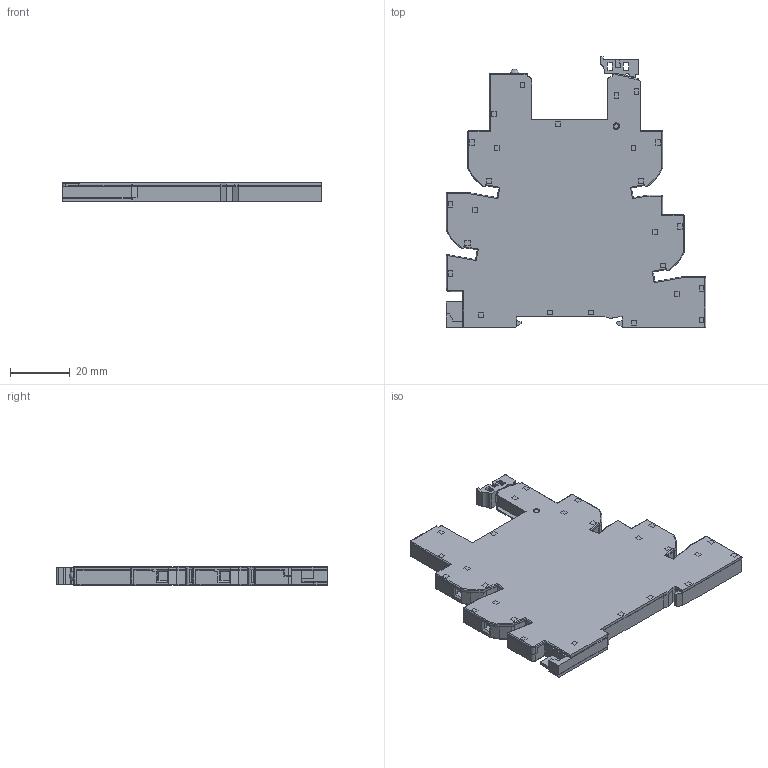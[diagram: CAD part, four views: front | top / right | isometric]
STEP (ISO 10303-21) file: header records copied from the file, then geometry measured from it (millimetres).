
FILE_DESCRIPTION(('STEP AP214'),'2;1');
FILE_NAME('Assieme 93.62---skin.stp','2010-04-15T10:20:10',(''),(''),'2007.1.106','THINKDESIGN','');
FILE_SCHEMA(('AUTOMOTIVE_DESIGN'));
Products named in the file (1): None
Bounding box: 87 x 90.7 x 6.2 mm (x, y, z)
Surface area: 25510.5 mm2 (no closed solid volume)
Topology: 0 solids, 0 shells, 948 faces, 6552 edges, 6532 vertices
Faces by surface type: plane 754, cylinder 166, bspline 28
Full cylindrical faces by diameter (mm): 2 x2, 2.2 x2, 3 x1, 3.9 x5
Entity records: 61473 total; most frequent: CARTESIAN_POINT 16086, DIRECTION 8158, COMPOSITE_CURVE_SEGMENT 6532, TRIMMED_CURVE 6055, VECTOR 5792, LINE 5792, AXIS2_PLACEMENT_3D 1183, OUTER_BOUNDARY_CURVE 948
